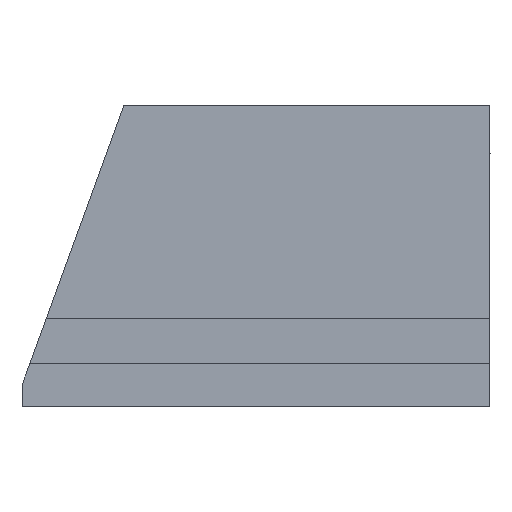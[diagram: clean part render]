
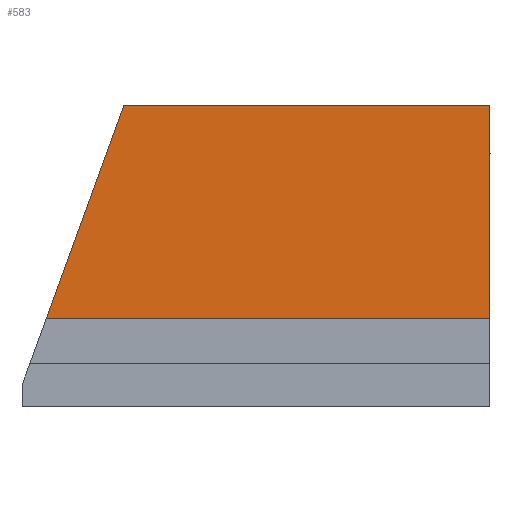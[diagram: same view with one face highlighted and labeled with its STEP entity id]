
A CAD part, front view. The second image highlights one B-rep face of the part: STEP entity #583.
In plain terms, the highlighted planar face has unit normal (0, -1, 0).
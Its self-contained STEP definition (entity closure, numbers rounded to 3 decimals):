
#583 = ADVANCED_FACE( '', ( #1227 ), #1228, .T. );
#1227 = FACE_OUTER_BOUND( '', #2940, .T. );
#1228 = PLANE( '', #2941 );
#2940 = EDGE_LOOP( '', ( #5058, #5059, #5060, #5061 ) );
#2941 = AXIS2_PLACEMENT_3D( '', #5062, #5063, #5064 );
#5058 = ORIENTED_EDGE( '', *, *, #5629, .T. );
#5059 = ORIENTED_EDGE( '', *, *, #5879, .T. );
#5060 = ORIENTED_EDGE( '', *, *, #5860, .F. );
#5061 = ORIENTED_EDGE( '', *, *, #5613, .T. );
#5062 = CARTESIAN_POINT( '', ( -110., -125., -70. ) );
#5063 = DIRECTION( '', ( 0., -1., 0. ) );
#5064 = DIRECTION( '', ( 1., 0., 0. ) );
#5613 = EDGE_CURVE( '', #6471, #6469, #6472, .T. );
#5629 = EDGE_CURVE( '', #6469, #6492, #6494, .T. );
#5860 = EDGE_CURVE( '', #6471, #6788, #6789, .T. );
#5879 = EDGE_CURVE( '', #6492, #6788, #6809, .T. );
#6469 = VERTEX_POINT( '', #7787 );
#6471 = VERTEX_POINT( '', #7790 );
#6472 = LINE( '', #7791, #7792 );
#6492 = VERTEX_POINT( '', #7819 );
#6494 = LINE( '', #7822, #7823 );
#6788 = VERTEX_POINT( '', #8375 );
#6789 = LINE( '', #8376, #8377 );
#6809 = LINE( '', #8405, #8406 );
#7787 = CARTESIAN_POINT( '', ( -103.017, -125., -49.5 ) );
#7790 = CARTESIAN_POINT( '', ( -85., -125., 0. ) );
#7791 = CARTESIAN_POINT( '', ( -110.422, -125., -69.846 ) );
#7792 = VECTOR( '', #8881, 1000. );
#7819 = CARTESIAN_POINT( '', ( 0., -125., -49.5 ) );
#7822 = CARTESIAN_POINT( '', ( -110., -125., -49.5 ) );
#7823 = VECTOR( '', #8899, 1000. );
#8375 = CARTESIAN_POINT( '', ( 0., -125., 0. ) );
#8376 = CARTESIAN_POINT( '', ( -110., -125., 0. ) );
#8377 = VECTOR( '', #9141, 1000. );
#8405 = CARTESIAN_POINT( '', ( 0., -125., -70. ) );
#8406 = VECTOR( '', #9153, 1000. );
#8881 = DIRECTION( '', ( -0.342, 0., -0.94 ) );
#8899 = DIRECTION( '', ( 1., 0., 0. ) );
#9141 = DIRECTION( '', ( 1., 0., 0. ) );
#9153 = DIRECTION( '', ( 0., 0., 1. ) );
